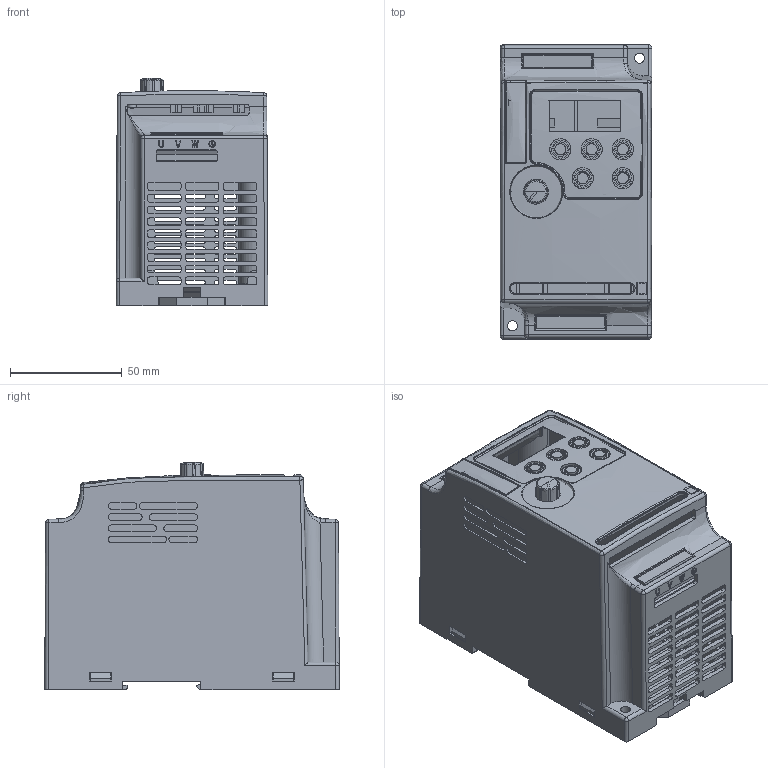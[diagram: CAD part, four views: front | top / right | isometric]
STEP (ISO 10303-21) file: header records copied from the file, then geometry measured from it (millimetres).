
FILE_DESCRIPTION((''),'2;1');
FILE_NAME('S21_ASM_ASM','2019-02-25T',('PC-TR'),(''),'PRO/ENGINEER BY PARAMETRIC TECHNOLOGY CORPORATION, 2010280','PRO/ENGINEER BY PARAMETRIC TECHNOLOGY CORPORATION, 2010280','');
FILE_SCHEMA(('CONFIG_CONTROL_DESIGN'));
Products named in the file (1): S21_ASM_ASM
Bounding box: 68.04 x 132.04 x 102.2 mm (x, y, z)
Surface area: 141490.8 mm2 (no closed solid volume)
Topology: 0 solids, 29 shells, 2084 faces, 5970 edges, 3956 vertices
Faces by surface type: plane 1405, cylinder 483, bspline 113, torus 35, cone 25, sphere 17, extrusion 6
Entity records: 78654 total; most frequent: CARTESIAN_POINT 26255, ORIENTED_EDGE 11770, DIRECTION 9223, EDGE_CURVE 5944, VECTOR 4203, LINE 4197, VERTEX_POINT 3952, AXIS2_PLACEMENT_3D 2510
